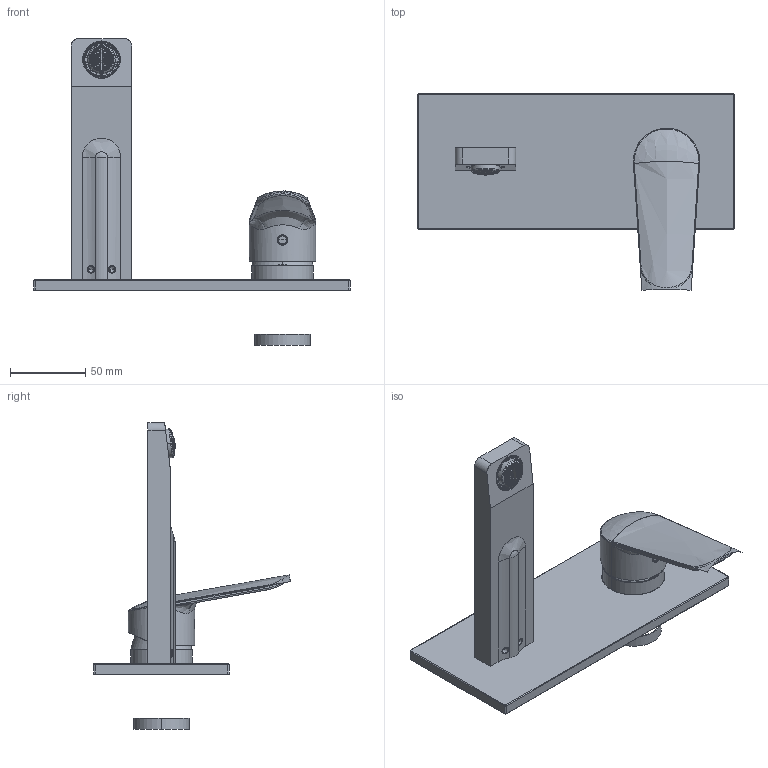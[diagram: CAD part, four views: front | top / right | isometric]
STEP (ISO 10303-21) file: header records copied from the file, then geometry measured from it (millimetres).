
FILE_DESCRIPTION((''),'2;1');
FILE_NAME('F3021WX5_ASM','2023-03-21T13:30:00',('samuelef'),(''),'CREO PARAMETRIC BY PTC INC, 2021184','CREO PARAMETRIC BY PTC INC, 2021184','');
FILE_SCHEMA(('CONFIG_CONTROL_DESIGN'));
Products named in the file (10): 5486CRO_AF44; 4618TAMC; AKART35N_AF38_ASM; 7926_PIASTRA_LAV_PAR_3971_5_AF4; 4772CRO_CAN_MATRIX_QUAD_L160; 4478_AERAT_M24X1_COIN_SLOT_00; 4753_LEVA_LAVABO_00; 7384_BOTTONE_CROMATO_D_5_5; 2034_29INS_ASM; F3021WX5_ASM
Assembly tree (9 placements, depth 3):
  F3021WX5_ASM
    AKART35N_AF38_ASM
      5486CRO_AF44
      4618TAMC
    7926_PIASTRA_LAV_PAR_3971_5_AF4
    4772CRO_CAN_MATRIX_QUAD_L160
    4478_AERAT_M24X1_COIN_SLOT_00
    4753_LEVA_LAVABO_00
    2034_29INS_ASM
      7384_BOTTONE_CROMATO_D_5_5
Bounding box: 210 x 130.52 x 203.5 mm (x, y, z)
Volume: 164875 mm3; surface area: 105485.7 mm2
Topology: 7 solids, 16 shells, 6574 faces, 18966 edges, 12547 vertices
Faces by surface type: plane 4933, torus 656, cylinder 399, bspline 350, cone 150, extrusion 49, sphere 37
Entity records: 252615 total; most frequent: CARTESIAN_POINT 93975, ORIENTED_EDGE 37836, DIRECTION 25231, EDGE_CURVE 18952, VERTEX_POINT 12547, B_SPLINE_CURVE_WITH_KNOTS 8696, AXIS2_PLACEMENT_3D 8674, VECTOR 7883
